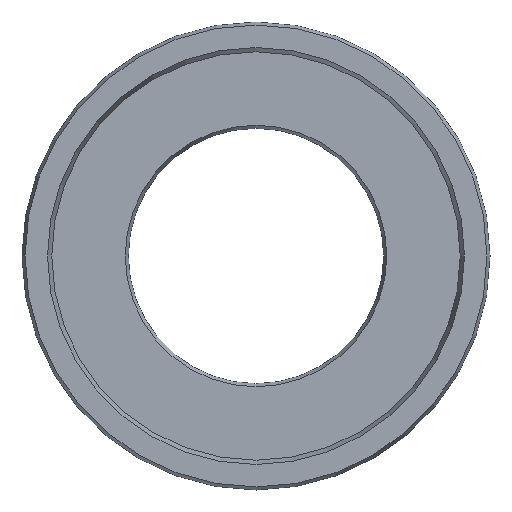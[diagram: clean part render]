
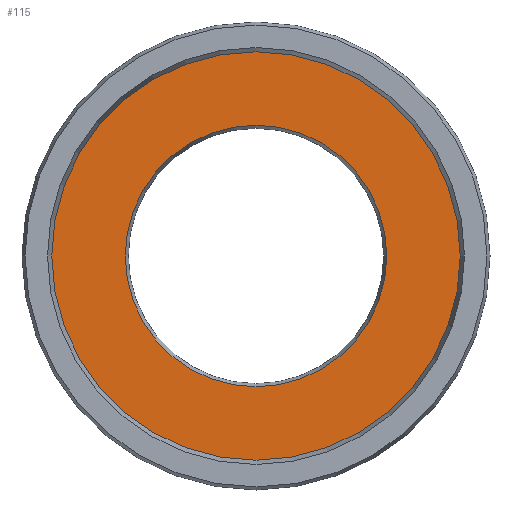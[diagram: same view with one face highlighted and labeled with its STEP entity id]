
A CAD part, left-side view. The second image highlights one B-rep face of the part: STEP entity #115.
In plain terms, the highlighted planar face has unit normal (-1, 0, 0).
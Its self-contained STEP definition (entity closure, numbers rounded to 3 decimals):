
#115=ADVANCED_FACE('',(#149,#150),#141,.F.);
#141=PLANE('',#386);
#149=FACE_BOUND('',#201,.T.);
#150=FACE_BOUND('',#202,.T.);
#201=EDGE_LOOP('',(#253));
#202=EDGE_LOOP('',(#254));
#253=ORIENTED_EDGE('',*,*,#331,.T.);
#254=ORIENTED_EDGE('',*,*,#332,.T.);
#305=VERTEX_POINT('',#544);
#306=VERTEX_POINT('',#546);
#331=EDGE_CURVE('',#305,#305,#357,.T.);
#332=EDGE_CURVE('',#306,#306,#358,.T.);
#357=CIRCLE('',#384,15.364);
#358=CIRCLE('',#385,24.);
#384=AXIS2_PLACEMENT_3D('',#543,#438,#439);
#385=AXIS2_PLACEMENT_3D('',#545,#440,#441);
#386=AXIS2_PLACEMENT_3D('',#547,#442,#443);
#438=DIRECTION('',(1.,0.,0.));
#439=DIRECTION('',(0.,0.,-1.));
#440=DIRECTION('',(-1.,0.,0.));
#441=DIRECTION('',(0.,0.,1.));
#442=DIRECTION('',(1.,0.,0.));
#443=DIRECTION('',(0.,0.,-1.));
#543=CARTESIAN_POINT('',(0.,0.,0.));
#544=CARTESIAN_POINT('',(0.,0.,-15.364));
#545=CARTESIAN_POINT('',(0.,0.,0.));
#546=CARTESIAN_POINT('',(0.,0.,24.));
#547=CARTESIAN_POINT('',(0.,24.,0.));
